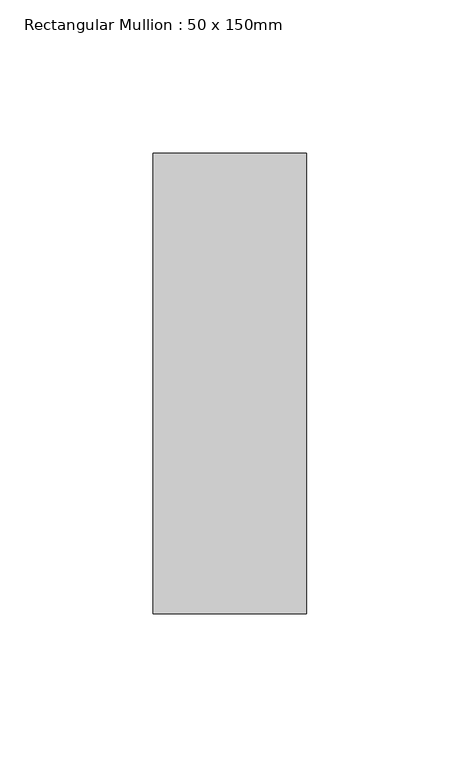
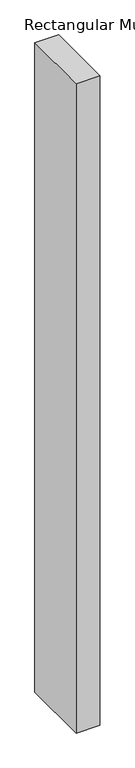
"""IFC4 building model written with IfcOpenShell, lengths in millimetres: member geometry, Rectangular Mullion : 50 x 150mm."""

from ifc_helpers import new_model, si_unit, frame, origin, place, context, project, spatial, polyline, outline, extrude, source, transform, mapped, element, save


def rectangular_mullion_50_x_150mm_624a7f9c(model_context):
    return source(origin(), model_context, "Body", "SweptSolid", [
        extrude(outline(polyline([(25.0, 75.0), (25.0, -75.0), (-25.0, -75.0), (-25.0, 75.0), (25.0, 75.0)])), frame((0.0, 0.0, -1446.7391304), z_axis=(0.0, 0.0, 1.0), x_axis=(1.0, 0.0, 0.0)), (0.0, 0.0, 1.0), 1446.7391304),
    ])


if __name__ == "__main__":
    model = new_model("IFC4")
    model_context = context("Model", 3, world=origin())
    ifc_project = project(units=[si_unit("LENGTHUNIT", "METRE", prefix="MILLI")], contexts=[model_context])
    site = spatial("IfcSite", under=ifc_project)
    building = spatial("IfcBuilding", under=site)
    placement = place(None, origin())
    rectangular_mullion_50_x_150mm_shape = rectangular_mullion_50_x_150mm_624a7f9c(model_context)
    element("IfcMember", 1, ObjectType="Rectangular Mullion : 50 x 150mm", at=placement, inside=building, context=model_context, shape_type="MappedRepresentation", body=[
        mapped(rectangular_mullion_50_x_150mm_shape, transform((0.0, 0.0, 0.0), x_axis=(1.0, 0.0, 0.0), y_axis=(0.0, 1.0, 0.0), z_axis=(0.0, 0.0, 1.0))),
    ])
    save(model, "model.ifc")
